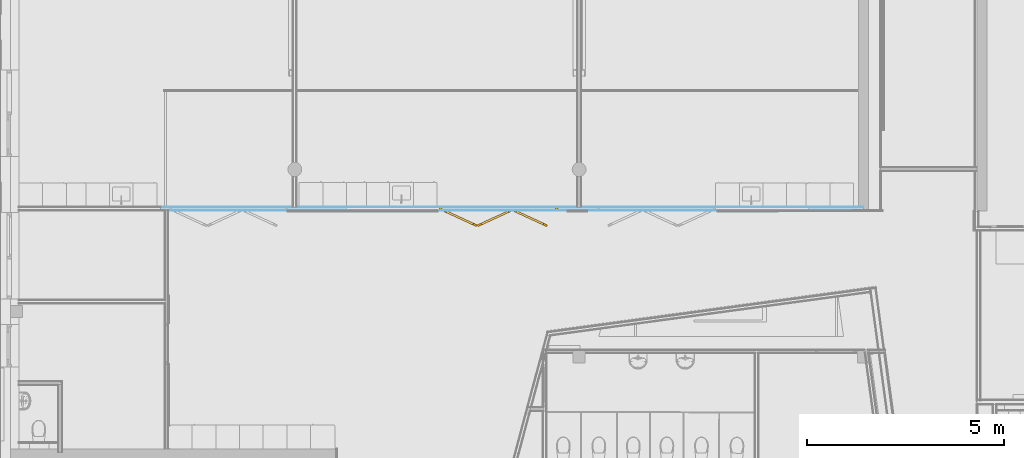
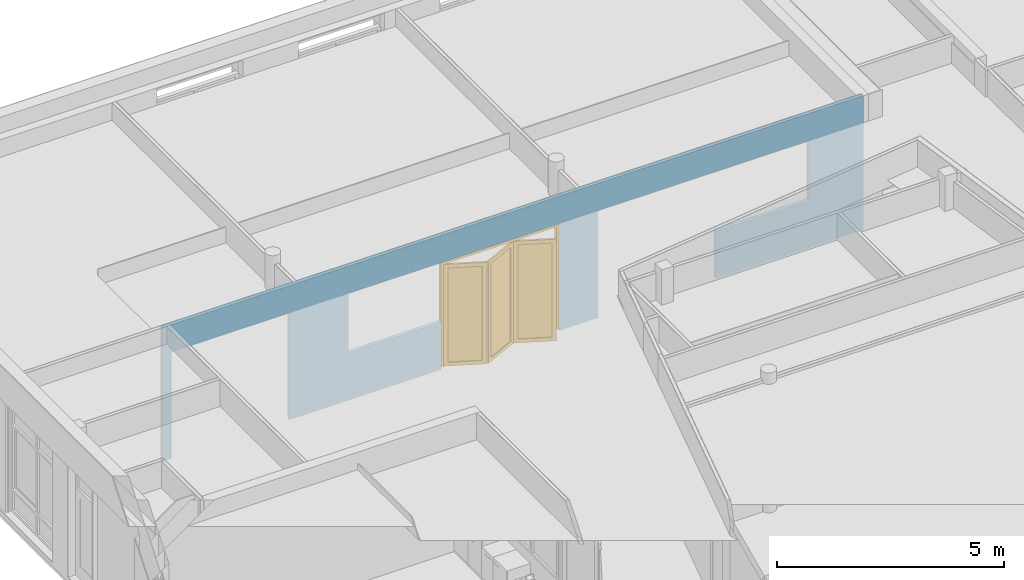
# One storey, part 37 of 167: 1 door, 5 openings, 1 element without a shape of its own, plus 3 elements that do not belong to this part.
"""IFC2X3 building model written with IfcOpenShell, lengths in millimetres."""

from ifc_helpers import new_model, entity, si_unit, converted_unit, derived_unit, money_unit, direction, frame, origin_with_axes, place, context, subcontext, project, spatial, open_shell, faceted_brep, surface_model, source, transform, mapped, material, type_object, type_shapes, element, fill, aggregate, save


model = new_model("IFC2X3")

# Units and contexts
model_context = context("Model", 3, precision=0.01, world=origin_with_axes(), true_north=direction((0.0, 1.0)))
plan_context = context("Plan", 3, precision=0.01, world=origin_with_axes(), true_north=direction((0.0, 1.0)))
body_context = subcontext(model_context, "Body", "Model", "MODEL_VIEW")
ifc_project = project(units=[si_unit("LENGTHUNIT", "METRE", prefix="MILLI"), si_unit("AREAUNIT", "SQUARE_METRE"), si_unit("VOLUMEUNIT", "CUBIC_METRE"), converted_unit("PLANEANGLEUNIT", "DEGREE", entity("IfcPlaneAngleMeasure", 0.0174532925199), si_unit("PLANEANGLEUNIT", "RADIAN"), dimensions=[0, 0, 0, 0, 0, 0, 0]), si_unit("SOLIDANGLEUNIT", "STERADIAN"), money_unit("EUR"), converted_unit("TIMEUNIT", "Year", entity("IfcTimeMeasure", 31556926.0), si_unit("TIMEUNIT", "SECOND"), dimensions=[0, 0, 1, 0, 0, 0, 0]), si_unit("MASSUNIT", "GRAM", prefix="KILO"), si_unit("THERMODYNAMICTEMPERATUREUNIT", "DEGREE_CELSIUS"), si_unit("LUMINOUSINTENSITYUNIT", "LUMEN"), si_unit("ENERGYUNIT", "JOULE", prefix="MEGA"), derived_unit("THERMALCONDUCTANCEUNIT", [(si_unit("POWERUNIT", "WATT"), 1), (si_unit("LENGTHUNIT", "METRE"), -1), (si_unit("THERMODYNAMICTEMPERATUREUNIT", "KELVIN"), -1)]), derived_unit("SPECIFICHEATCAPACITYUNIT", [(si_unit("ENERGYUNIT", "JOULE"), 1), (si_unit("MASSUNIT", "GRAM", prefix="KILO"), -1), (si_unit("THERMODYNAMICTEMPERATUREUNIT", "KELVIN"), -1)]), derived_unit("MASSDENSITYUNIT", [(si_unit("MASSUNIT", "GRAM", prefix="KILO"), 1), (si_unit("VOLUMEUNIT", "CUBIC_METRE"), -1)])], contexts=[model_context, plan_context])

# Site, building, storey
site_placement = place(None, origin_with_axes())
site = spatial("IfcSite", under=ifc_project, at=site_placement, Name="Site", CompositionType="ELEMENT")
building_placement = place(site_placement, origin_with_axes())
building = spatial("IfcBuilding", under=site, at=building_placement, Name="Naam gebouw", CompositionType="ELEMENT")
storey_placement = place(building_placement, origin_with_axes())
storey = spatial("IfcBuildingStorey", under=building, at=storey_placement, Name="Begane grond", CompositionType="ELEMENT", Elevation=0.0)

# Door
door_style = type_object("IfcDoorStyle", Name="DV1 24", ConstructionType="NOTDEFINED", OperationType="FOLDING_TO_LEFT", ParameterTakesPrecedence=False, Sizeable=False)
shared_shape = source(origin_with_axes(), body_context, "Body", "SurfaceModel", [
    faceted_brep([(1500.0, 0.0, 0.0), (1500.0, -80.0, 0.0), (1433.0, -80.0, 0.0), (1433.0, 0.0, 0.0), (1500.0, 0.0, 2733.0), (1500.0, -80.0, 2733.0), (1433.0, -80.0, 2733.0), (1433.0, 0.0, 2733.0)], [[[0, 1, 2, 3]], [[4, 5, 1, 0]], [[1, 5, 6, 2]], [[3, 2, 6, 7]], [[0, 3, 7, 4]], [[7, 6, 5, 4]]]),
    faceted_brep([(-1500.0, 0.0, 0.0), (-1500.0, -80.0, 0.0), (-1500.0, -80.0, 2733.0), (-1500.0, 0.0, 2733.0), (-1433.0, 0.0, 0.0), (-1433.0, -80.0, 0.0), (-1433.0, -80.0, 2733.0), (-1433.0, 0.0, 2733.0)], [[[0, 1, 2, 3]], [[4, 5, 1, 0]], [[1, 5, 6, 2]], [[3, 2, 6, 7]], [[0, 3, 7, 4]], [[7, 6, 5, 4]]]),
    faceted_brep([(1500.0, 0.0, 2800.0), (1500.0, -80.0, 2800.0), (1500.0, -80.0, 2733.0), (1500.0, 0.0, 2733.0), (-1500.0, 0.0, 2800.0), (-1500.0, -80.0, 2800.0), (-1500.0, -80.0, 2733.0), (-1433.0, -80.0, 2733.0), (1433.0, -80.0, 2733.0), (1433.0, 0.0, 2733.0), (-1433.0, 0.0, 2733.0), (-1500.0, 0.0, 2733.0)], [[[0, 1, 2, 3]], [[4, 5, 1, 0]], [[1, 5, 6, 7, 8, 2]], [[3, 2, 8, 9]], [[0, 3, 9, 10, 11, 4]], [[11, 6, 5, 4]], [[10, 7, 6, 11]], [[9, 8, 7, 10]]]),
    faceted_brep([(1433.0, 0.0, 100.0), (1412.08677852, -45.4162654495, 100.0), (1321.25424762, -3.58982249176, 100.0), (1342.1674691, 41.8264429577, 100.0), (1433.0, 0.0, 2633.0), (1412.08677852, -45.4162654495, 2633.0), (1321.25424762, -3.58982249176, 2633.0), (1342.1674691, 41.8264429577, 2633.0)], [[[0, 1, 2, 3]], [[4, 5, 1, 0]], [[1, 5, 6, 2]], [[3, 2, 6, 7]], [[0, 3, 7, 4]], [[7, 6, 5, 4]]]),
    faceted_brep([(565.246554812, 399.581951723, 100.0), (544.333333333, 354.165686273, 100.0), (544.333333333, 354.165686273, 2633.0), (565.246554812, 399.581951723, 2633.0), (656.079085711, 357.755508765, 100.0), (635.165864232, 312.339243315, 100.0), (635.165864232, 312.339243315, 2633.0), (656.079085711, 357.755508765, 2633.0)], [[[0, 1, 2, 3]], [[4, 5, 1, 0]], [[1, 5, 6, 2]], [[3, 2, 6, 7]], [[0, 3, 7, 4]], [[7, 6, 5, 4]]]),
    faceted_brep([(1433.0, 0.0, 0.0), (1412.08677852, -45.4162654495, 0.0), (544.333333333, 354.165686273, 0.0), (565.246554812, 399.581951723, 0.0), (1433.0, 0.0, 100.0), (1412.08677852, -45.4162654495, 100.0), (1321.25424762, -3.58982249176, 100.0), (635.165864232, 312.339243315, 100.0), (544.333333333, 354.165686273, 100.0), (565.246554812, 399.581951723, 100.0), (656.079085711, 357.755508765, 100.0), (1342.1674691, 41.8264429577, 100.0)], [[[0, 1, 2, 3]], [[4, 5, 1, 0]], [[1, 5, 6, 7, 8, 2]], [[3, 2, 8, 9]], [[0, 3, 9, 10, 11, 4]], [[11, 6, 5, 4]], [[10, 7, 6, 11]], [[9, 8, 7, 10]]]),
    faceted_brep([(1433.0, 0.0, 2733.0), (1412.08677852, -45.4162654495, 2733.0), (1412.08677852, -45.4162654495, 2633.0), (1433.0, 0.0, 2633.0), (565.246554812, 399.581951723, 2733.0), (544.333333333, 354.165686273, 2733.0), (544.333333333, 354.165686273, 2633.0), (635.165864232, 312.339243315, 2633.0), (1321.25424762, -3.58982249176, 2633.0), (1342.1674691, 41.8264429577, 2633.0), (656.079085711, 357.755508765, 2633.0), (565.246554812, 399.581951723, 2633.0)], [[[0, 1, 2, 3]], [[4, 5, 1, 0]], [[1, 5, 6, 7, 8, 2]], [[3, 2, 8, 9]], [[0, 3, 9, 10, 11, 4]], [[11, 6, 5, 4]], [[10, 7, 6, 11]], [[9, 8, 7, 10]]]),
    surface_model("IfcShellBasedSurfaceModel", [(648.132061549, 340.497327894, 100.0), (648.132061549, 340.497327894, 2633.0), (1334.22044494, 24.5682620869, 2633.0), (1334.22044494, 24.5682620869, 100.0)], [open_shell([[[0, 1, 2, 3]]])]),
    surface_model("IfcShellBasedSurfaceModel", [(643.112888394, 329.597424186, 100.0), (1329.20127178, 13.668358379, 100.0), (1329.20127178, 13.668358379, 2633.0), (643.112888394, 329.597424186, 2633.0)], [open_shell([[[0, 1, 2, 3]]])]),
    faceted_brep([(523.420111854, 399.581951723, 100.0), (544.333333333, 354.165686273, 100.0), (453.500802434, 312.339243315, 100.0), (432.587580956, 357.755508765, 100.0), (523.420111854, 399.581951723, 2633.0), (544.333333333, 354.165686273, 2633.0), (453.500802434, 312.339243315, 2633.0), (432.587580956, 357.755508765, 2633.0)], [[[0, 1, 2, 3]], [[4, 5, 1, 0]], [[1, 5, 6, 2]], [[3, 2, 6, 7]], [[0, 3, 7, 4]], [[7, 6, 5, 4]]]),
    faceted_brep([(-344.333333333, 0.0, 100.0), (-323.420111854, -45.4162654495, 100.0), (-323.420111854, -45.4162654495, 2633.0), (-344.333333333, 0.0, 2633.0), (-253.500802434, 41.8264429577, 100.0), (-232.587580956, -3.58982249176, 100.0), (-232.587580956, -3.58982249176, 2633.0), (-253.500802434, 41.8264429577, 2633.0)], [[[0, 1, 2, 3]], [[4, 5, 1, 0]], [[1, 5, 6, 2]], [[3, 2, 6, 7]], [[0, 3, 7, 4]], [[7, 6, 5, 4]]]),
    faceted_brep([(523.420111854, 399.581951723, 0.0), (544.333333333, 354.165686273, 0.0), (-323.420111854, -45.4162654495, 0.0), (-344.333333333, 0.0, 0.0), (523.420111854, 399.581951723, 100.0), (544.333333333, 354.165686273, 100.0), (453.500802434, 312.339243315, 100.0), (-232.587580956, -3.58982249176, 100.0), (-323.420111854, -45.4162654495, 100.0), (-344.333333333, 0.0, 100.0), (-253.500802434, 41.8264429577, 100.0), (432.587580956, 357.755508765, 100.0)], [[[0, 1, 2, 3]], [[4, 5, 1, 0]], [[1, 5, 6, 7, 8, 2]], [[3, 2, 8, 9]], [[0, 3, 9, 10, 11, 4]], [[11, 6, 5, 4]], [[10, 7, 6, 11]], [[9, 8, 7, 10]]]),
    faceted_brep([(523.420111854, 399.581951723, 2733.0), (544.333333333, 354.165686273, 2733.0), (544.333333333, 354.165686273, 2633.0), (523.420111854, 399.581951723, 2633.0), (-344.333333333, 0.0, 2733.0), (-323.420111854, -45.4162654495, 2733.0), (-323.420111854, -45.4162654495, 2633.0), (-232.587580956, -3.58982249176, 2633.0), (453.500802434, 312.339243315, 2633.0), (432.587580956, 357.755508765, 2633.0), (-253.500802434, 41.8264429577, 2633.0), (-344.333333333, 0.0, 2633.0)], [[[0, 1, 2, 3]], [[4, 5, 1, 0]], [[1, 5, 6, 7, 8, 2]], [[3, 2, 8, 9]], [[0, 3, 9, 10, 11, 4]], [[11, 6, 5, 4]], [[10, 7, 6, 11]], [[9, 8, 7, 10]]]),
    surface_model("IfcShellBasedSurfaceModel", [(-245.553778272, 24.5682620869, 100.0), (-245.553778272, 24.5682620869, 2633.0), (440.534605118, 340.497327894, 2633.0), (440.534605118, 340.497327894, 100.0)], [open_shell([[[0, 1, 2, 3]]])]),
    surface_model("IfcShellBasedSurfaceModel", [(-240.534605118, 13.668358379, 100.0), (445.553778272, 329.597424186, 100.0), (445.553778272, 329.597424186, 2633.0), (-240.534605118, 13.668358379, 2633.0)], [open_shell([[[0, 1, 2, 3]]])]),
    faceted_brep([(-344.333333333, 0.0, 100.0), (-365.246554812, -45.4162654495, 100.0), (-456.079085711, -3.58982249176, 100.0), (-435.165864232, 41.8264429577, 100.0), (-344.333333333, 0.0, 2633.0), (-365.246554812, -45.4162654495, 2633.0), (-456.079085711, -3.58982249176, 2633.0), (-435.165864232, 41.8264429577, 2633.0)], [[[0, 1, 2, 3]], [[4, 5, 1, 0]], [[1, 5, 6, 2]], [[3, 2, 6, 7]], [[0, 3, 7, 4]], [[7, 6, 5, 4]]]),
    faceted_brep([(-1212.08677852, 399.581951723, 100.0), (-1233.0, 354.165686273, 100.0), (-1233.0, 354.165686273, 2633.0), (-1212.08677852, 399.581951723, 2633.0), (-1121.25424762, 357.755508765, 100.0), (-1142.1674691, 312.339243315, 100.0), (-1142.1674691, 312.339243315, 2633.0), (-1121.25424762, 357.755508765, 2633.0)], [[[0, 1, 2, 3]], [[4, 5, 1, 0]], [[1, 5, 6, 2]], [[3, 2, 6, 7]], [[0, 3, 7, 4]], [[7, 6, 5, 4]]]),
    faceted_brep([(-344.333333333, 0.0, 0.0), (-365.246554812, -45.4162654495, 0.0), (-1233.0, 354.165686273, 0.0), (-1212.08677852, 399.581951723, 0.0), (-344.333333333, 0.0, 100.0), (-365.246554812, -45.4162654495, 100.0), (-456.079085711, -3.58982249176, 100.0), (-1142.1674691, 312.339243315, 100.0), (-1233.0, 354.165686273, 100.0), (-1212.08677852, 399.581951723, 100.0), (-1121.25424762, 357.755508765, 100.0), (-435.165864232, 41.8264429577, 100.0)], [[[0, 1, 2, 3]], [[4, 5, 1, 0]], [[1, 5, 6, 7, 8, 2]], [[3, 2, 8, 9]], [[0, 3, 9, 10, 11, 4]], [[11, 6, 5, 4]], [[10, 7, 6, 11]], [[9, 8, 7, 10]]]),
    faceted_brep([(-344.333333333, 0.0, 2733.0), (-365.246554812, -45.4162654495, 2733.0), (-365.246554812, -45.4162654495, 2633.0), (-344.333333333, 0.0, 2633.0), (-1212.08677852, 399.581951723, 2733.0), (-1233.0, 354.165686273, 2733.0), (-1233.0, 354.165686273, 2633.0), (-1142.1674691, 312.339243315, 2633.0), (-456.079085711, -3.58982249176, 2633.0), (-435.165864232, 41.8264429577, 2633.0), (-1121.25424762, 357.755508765, 2633.0), (-1212.08677852, 399.581951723, 2633.0)], [[[0, 1, 2, 3]], [[4, 5, 1, 0]], [[1, 5, 6, 7, 8, 2]], [[3, 2, 8, 9]], [[0, 3, 9, 10, 11, 4]], [[11, 6, 5, 4]], [[10, 7, 6, 11]], [[9, 8, 7, 10]]]),
    surface_model("IfcShellBasedSurfaceModel", [(-1129.20127178, 340.497327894, 100.0), (-1129.20127178, 340.497327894, 2633.0), (-443.112888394, 24.5682620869, 2633.0), (-443.112888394, 24.5682620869, 100.0)], [open_shell([[[0, 1, 2, 3]]])]),
    surface_model("IfcShellBasedSurfaceModel", [(-1134.22044494, 329.597424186, 100.0), (-448.132061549, 13.668358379, 100.0), (-448.132061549, 13.668358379, 2633.0), (-1134.22044494, 329.597424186, 2633.0)], [open_shell([[[0, 1, 2, 3]]])]),
])
type_shapes(door_style, [shared_shape])
wall_placement = place(storey_placement, frame((3950.0, 42200.0, -100.0), z_axis=(0.0, 0.0, 1.0), x_axis=(1.0, 0.0, 0.0)))
opening_3_placement = place(wall_placement, frame((8415.0, 0.0, 100.0), z_axis=(0.0, 0.0, 1.0), x_axis=(1.0, 0.0, 0.0)))
door_placement = place(opening_3_placement, frame((1500.0, 0.0, 0.0), z_axis=(0.0, 0.0, 1.0), x_axis=(-1.0, 0.0, 0.0)))
door = element("IfcDoor", 1, at=door_placement, inside=storey, type_object=door_style, Name="32_Deur_Si-02", ObjectType="DOOR", OverallHeight=2800.0, OverallWidth=3000.0, context=body_context, shape_type="MappedRepresentation", body=[
    mapped(shared_shape, transform((1500.0, 50.0, 0.0))),
])

# Wall, openings
wall_type = type_object("IfcWallType", Name="_TenW_22_Metalstud 100 enkel gipsvezelplaat 100", PredefinedType="NOTDEFINED")
wall = element("IfcWall", 2, at=wall_placement, inside=storey, type_object=wall_type, Name="22_Wand_Wand-x")
opening_1_placement = place(wall_placement, frame((5740.0, 0.0, 1300.0), z_axis=(0.0, 0.0, 1.0), x_axis=(1.0, 0.0, 0.0)))
element("IfcOpeningElement", 3, at=opening_1_placement, cuts=wall, Name="31_Raam_Hi-53", context=body_context, shape_type="Brep", body=[
    faceted_brep([(-1175.0, 100.0, 1600.0), (-1175.0, 100.0, 0.0), (-1175.0, -200.0, 0.0), (-1175.0, -200.0, 1600.0), (1175.0, 100.0, 1600.0), (1175.0, 100.0, 0.0), (1175.0, -200.0, 0.0), (1175.0, -200.0, 1600.0)], [[[0, 1, 2, 3]], [[0, 4, 5, 1]], [[1, 5, 6, 2]], [[3, 2, 6, 7]], [[4, 0, 3, 7]], [[5, 4, 7, 6]]]),
])
opening_2_placement = place(wall_placement, frame((15080.2814686, 0.0, 1300.0), z_axis=(0.0, 0.0, 1.0), x_axis=(1.0, 0.0, 0.0)))
element("IfcOpeningElement", 4, at=opening_2_placement, cuts=wall, Name="31_Raam_Hi-53", context=body_context, shape_type="Brep", body=[
    faceted_brep([(1175.0, -200.0, 1600.0), (1175.0, -200.0, 0.0), (1175.0, 100.0, 0.0), (1175.0, 100.0, 1600.0), (-1175.0, -200.0, 1600.0), (-1175.0, -200.0, 0.0), (-1175.0, 100.0, 0.0), (-1175.0, 100.0, 1600.0)], [[[0, 1, 2, 3]], [[0, 4, 5, 1]], [[1, 5, 6, 2]], [[3, 2, 6, 7]], [[4, 0, 3, 7]], [[5, 4, 7, 6]]]),
])
opening_3 = element("IfcOpeningElement", 5, at=opening_3_placement, cuts=wall, Name="32_Deur_Si-02", context=body_context, shape_type="Brep", body=[
    faceted_brep([(1500.0, -200.0, 2800.0), (1500.0, -200.0, 0.0), (1500.0, 100.0, 0.0), (1500.0, 100.0, 2800.0), (-1500.0, -200.0, 2800.0), (-1500.0, -200.0, 0.0), (-1500.0, 100.0, 0.0), (-1500.0, 100.0, 2800.0)], [[[0, 1, 2, 3]], [[0, 4, 5, 1]], [[1, 5, 6, 2]], [[3, 2, 6, 7]], [[4, 0, 3, 7]], [[5, 4, 7, 6]]]),
])

fill(opening_3, door)

# Opening
opening_4_placement = place(wall_placement, frame((12405.2814686, 0.0, 100.0), z_axis=(0.0, 0.0, 1.0), x_axis=(1.0, 0.0, 0.0)))
element("IfcOpeningElement", 6, at=opening_4_placement, cuts=wall, Name="32_Deur_Si-02s", context=body_context, shape_type="Brep", body=[
    faceted_brep([(-1500.0, 100.0, 2800.0), (-1500.0, 100.0, 0.0), (-1500.0, -200.0, 0.0), (-1500.0, -200.0, 2800.0), (1500.0, 100.0, 2800.0), (1500.0, 100.0, 0.0), (1500.0, -200.0, 0.0), (1500.0, -200.0, 2800.0)], [[[0, 1, 2, 3]], [[0, 4, 5, 1]], [[1, 5, 6, 2]], [[3, 2, 6, 7]], [[4, 0, 3, 7]], [[5, 4, 7, 6]]]),
])

opening_5_placement = place(wall_placement, frame((1575.0, 0.0, 100.0), z_axis=(0.0, 0.0, 1.0), x_axis=(1.0, 0.0, 0.0)))
element("IfcOpeningElement", 7, at=opening_5_placement, cuts=wall, Name="32_Deur_Si-01", context=body_context, shape_type="Brep", body=[
    faceted_brep([(1500.0, -200.0, 2800.0), (1500.0, -200.0, 0.0), (1500.0, 100.0, 0.0), (1500.0, 100.0, 2800.0), (-1500.0, -200.0, 2800.0), (-1500.0, -200.0, 0.0), (-1500.0, 100.0, 0.0), (-1500.0, 100.0, 2800.0)], [[[0, 1, 2, 3]], [[0, 4, 5, 1]], [[1, 5, 6, 2]], [[3, 2, 6, 7]], [[4, 0, 3, 7]], [[5, 4, 7, 6]]]),
])

# Building element part
ifc_material_1 = material(Name="Gipsplaat watervast")
building_element_part_1_placement = place(wall_placement, origin_with_axes())
building_element_part_1 = element("IfcBuildingElementPart", 8, at=building_element_part_1_placement, material=ifc_material_1, Name="Gipsplaat watervast", context=body_context, shape_type="Brep", body=[
    faceted_brep([(75.0, 50.0, 2900.0), (75.0, 50.0, 100.0), (75.0, 50.0, 30.0), (-150.0, 50.0, 30.0), (-150.0, 50.0, 3630.0), (3212.5, 50.0, 3630.0), (3212.5, 50.0, 30.0), (3075.0, 50.0, 30.0), (3075.0, 50.0, 100.0), (3075.0, 50.0, 2900.0), (75.0, 37.5, 2900.0), (75.0, 37.5, 100.0), (75.0, 37.5, 30.0), (-150.0, 37.5, 30.0), (-150.0, 37.5, 3630.0), (3212.5, 37.5, 3630.0), (3212.5, 37.5, 30.0), (3075.0, 37.5, 30.0), (3075.0, 37.5, 100.0), (3075.0, 37.5, 2900.0)], [[[0, 1, 2, 3, 4, 5, 6, 7, 8, 9]], [[1, 0, 10, 11]], [[1, 11, 12, 2]], [[12, 13, 3, 2]], [[13, 14, 4, 3]], [[4, 14, 15, 5]], [[6, 5, 15, 16]], [[7, 6, 16, 17]], [[18, 8, 7, 17]], [[9, 8, 18, 19]], [[0, 9, 19, 10]], [[19, 18, 17, 16, 15, 14, 13, 12, 11, 10]]]),
    faceted_brep([(10905.2814686, 50.0, 2900.0), (10905.2814686, 50.0, 100.0), (10905.2814686, 50.0, 30.0), (10487.5, 50.0, 30.0), (10487.5, 50.0, 3630.0), (17650.0, 50.0, 3630.0), (17650.0, 50.0, 30.0), (13905.2814686, 50.0, 30.0), (13905.2814686, 50.0, 100.0), (13905.2814686, 50.0, 1300.0), (16255.2814686, 50.0, 1300.0), (16255.2814686, 50.0, 2900.0), (13905.2814686, 50.0, 2900.0), (10905.2814686, 37.5, 2900.0), (10905.2814686, 37.5, 100.0), (10905.2814686, 37.5, 30.0), (10487.5, 37.5, 30.0), (10487.5, 37.5, 3630.0), (17650.0, 37.5, 3630.0), (17650.0, 37.5, 30.0), (13905.2814686, 37.5, 30.0), (13905.2814686, 37.5, 100.0), (13905.2814686, 37.5, 1300.0), (16255.2814686, 37.5, 1300.0), (16255.2814686, 37.5, 2900.0), (13905.2814686, 37.5, 2900.0)], [[[0, 1, 2, 3, 4, 5, 6, 7, 8, 9, 10, 11, 12]], [[1, 0, 13, 14]], [[1, 14, 15, 2]], [[16, 3, 2, 15]], [[17, 4, 3, 16]], [[18, 5, 4, 17]], [[5, 18, 19, 6]], [[6, 19, 20, 7]], [[21, 8, 7, 20]], [[22, 9, 8, 21]], [[9, 22, 23, 10]], [[10, 23, 24, 11]], [[25, 13, 0, 12, 11, 24]], [[13, 25, 24, 23, 22, 21, 20, 19, 18, 17, 16, 15, 14]]]),
    faceted_brep([(6915.0, 37.5, 1300.0), (6915.0, 50.0, 1300.0), (4565.0, 50.0, 1300.0), (4565.0, 37.5, 1300.0), (6915.0, 50.0, 100.0), (6915.0, 37.5, 100.0), (9915.0, 50.0, 2900.0), (6915.0, 50.0, 2900.0), (4565.0, 50.0, 2900.0), (6915.0, 50.0, 30.0), (3287.5, 50.0, 30.0), (3287.5, 50.0, 3630.0), (10412.5, 50.0, 3630.0), (10412.5, 50.0, 30.0), (9915.0, 50.0, 30.0), (9915.0, 50.0, 100.0), (4565.0, 37.5, 2900.0), (9915.0, 37.5, 2900.0), (9915.0, 37.5, 100.0), (9915.0, 37.5, 30.0), (10412.5, 37.5, 30.0), (10412.5, 37.5, 3630.0), (3287.5, 37.5, 3630.0), (3287.5, 37.5, 30.0), (6915.0, 37.5, 30.0), (6915.0, 37.5, 2900.0)], [[[0, 1, 2, 3]], [[4, 1, 0, 5]], [[6, 7, 8, 2, 1, 4, 9, 10, 11, 12, 13, 14, 15]], [[8, 16, 3, 2]], [[17, 18, 19, 20, 21, 22, 23, 24, 5, 0, 3, 16, 25]], [[4, 5, 24, 9]], [[7, 6, 17, 25, 16, 8]], [[23, 10, 9, 24]], [[22, 11, 10, 23]], [[21, 12, 11, 22]], [[12, 21, 20, 13]], [[13, 20, 19, 14]], [[18, 15, 14, 19]], [[6, 15, 18, 17]]]),
])

ifc_material_2 = material(Name="Isolatie - Steenwol zacht")
building_element_part_2_placement = place(wall_placement, origin_with_axes())
building_element_part_2 = element("IfcBuildingElementPart", 9, at=building_element_part_2_placement, material=ifc_material_2, Name="Isolatie - Steenwol zacht", context=body_context, shape_type="Brep", body=[
    faceted_brep([(75.0, 37.5, 2900.0), (75.0, 37.5, 100.0), (75.0, 37.5, 30.0), (-150.0, 37.5, 30.0), (-150.0, 37.5, 3630.0), (17650.0, 37.5, 3630.0), (17650.0, 37.5, 30.0), (13905.2814686, 37.5, 30.0), (13905.2814686, 37.5, 100.0), (13905.2814686, 37.5, 1300.0), (16255.2814686, 37.5, 1300.0), (16255.2814686, 37.5, 2900.0), (10905.2814686, 37.5, 2900.0), (10905.2814686, 37.5, 100.0), (10905.2814686, 37.5, 30.0), (9915.0, 37.5, 30.0), (9915.0, 37.5, 100.0), (9915.0, 37.5, 2900.0), (4565.0, 37.5, 2900.0), (4565.0, 37.5, 1300.0), (6915.0, 37.5, 1300.0), (6915.0, 37.5, 100.0), (6915.0, 37.5, 30.0), (3075.0, 37.5, 30.0), (3075.0, 37.5, 100.0), (3075.0, 37.5, 2900.0), (75.0, -37.5, 2900.0), (75.0, -37.5, 100.0), (75.0, -37.5, 30.0), (-150.0, -37.5, 30.0), (-150.0, -37.5, 3630.0), (17650.0, -37.5, 3630.0), (17650.0, -37.5, 30.0), (13905.2814686, -37.5, 30.0), (13905.2814686, -37.5, 100.0), (13905.2814686, -37.5, 1300.0), (16255.2814686, -37.5, 1300.0), (16255.2814686, -37.5, 2900.0), (10905.2814686, -37.5, 2900.0), (10905.2814686, -37.5, 100.0), (10905.2814686, -37.5, 30.0), (9915.0, -37.5, 30.0), (9915.0, -37.5, 100.0), (9915.0, -37.5, 2900.0), (4565.0, -37.5, 2900.0), (4565.0, -37.5, 1300.0), (6915.0, -37.5, 1300.0), (6915.0, -37.5, 100.0), (6915.0, -37.5, 30.0), (3075.0, -37.5, 30.0), (3075.0, -37.5, 100.0), (3075.0, -37.5, 2900.0)], [[[0, 1, 2, 3, 4, 5, 6, 7, 8, 9, 10, 11, 12, 13, 14, 15, 16, 17, 18, 19, 20, 21, 22, 23, 24, 25]], [[1, 0, 26, 27]], [[1, 27, 28, 2]], [[28, 29, 3, 2]], [[29, 30, 4, 3]], [[4, 30, 31, 5]], [[6, 5, 31, 32]], [[7, 6, 32, 33]], [[8, 7, 33, 34]], [[9, 8, 34, 35]], [[35, 36, 10, 9]], [[37, 11, 10, 36]], [[12, 11, 37, 38]], [[12, 38, 39, 13]], [[39, 40, 14, 13]], [[40, 41, 15, 14]], [[15, 41, 42, 16]], [[42, 43, 17, 16]], [[44, 18, 17, 43]], [[19, 18, 44, 45]], [[19, 45, 46, 20]], [[46, 47, 21, 20]], [[48, 22, 21, 47]], [[48, 49, 23, 22]], [[50, 24, 23, 49]], [[25, 24, 50, 51]], [[0, 25, 51, 26]], [[51, 50, 49, 48, 47, 46, 45, 44, 43, 42, 41, 40, 39, 38, 37, 36, 35, 34, 33, 32, 31, 30, 29, 28, 27, 26]]]),
])

building_element_part_3_placement = place(wall_placement, origin_with_axes())
building_element_part_3 = element("IfcBuildingElementPart", 10, at=building_element_part_3_placement, material=ifc_material_1, Name="Gipsplaat watervast", context=body_context, shape_type="Brep", body=[
    faceted_brep([(75.0, -37.5, 2900.0), (75.0, -37.5, 100.0), (75.0, -37.5, 30.0), (50.0, -37.5, 30.0), (50.0, -37.5, 3630.0), (17650.0, -37.5, 3630.0), (17650.0, -37.5, 30.0), (13905.2814686, -37.5, 30.0), (13905.2814686, -37.5, 100.0), (13905.2814686, -37.5, 1300.0), (16255.2814686, -37.5, 1300.0), (16255.2814686, -37.5, 2900.0), (10905.2814686, -37.5, 2900.0), (10905.2814686, -37.5, 100.0), (10905.2814686, -37.5, 30.0), (9915.0, -37.5, 30.0), (9915.0, -37.5, 100.0), (9915.0, -37.5, 2900.0), (4565.0, -37.5, 2900.0), (4565.0, -37.5, 1300.0), (6915.0, -37.5, 1300.0), (6915.0, -37.5, 100.0), (6915.0, -37.5, 30.0), (3075.0, -37.5, 30.0), (3075.0, -37.5, 100.0), (3075.0, -37.5, 2900.0), (75.0, -50.0, 2900.0), (75.0, -50.0, 100.0), (75.0, -50.0, 30.0), (50.0, -50.0, 30.0), (50.0, -50.0, 3630.0), (17650.0, -50.0, 3630.0), (17650.0, -50.0, 30.0), (13905.2814686, -50.0, 30.0), (13905.2814686, -50.0, 100.0), (13905.2814686, -50.0, 1300.0), (16255.2814686, -50.0, 1300.0), (16255.2814686, -50.0, 2900.0), (10905.2814686, -50.0, 2900.0), (10905.2814686, -50.0, 100.0), (10905.2814686, -50.0, 30.0), (9915.0, -50.0, 30.0), (9915.0, -50.0, 100.0), (9915.0, -50.0, 2900.0), (4565.0, -50.0, 2900.0), (4565.0, -50.0, 1300.0), (6915.0, -50.0, 1300.0), (6915.0, -50.0, 100.0), (6915.0, -50.0, 30.0), (3075.0, -50.0, 30.0), (3075.0, -50.0, 100.0), (3075.0, -50.0, 2900.0)], [[[0, 1, 2, 3, 4, 5, 6, 7, 8, 9, 10, 11, 12, 13, 14, 15, 16, 17, 18, 19, 20, 21, 22, 23, 24, 25]], [[1, 0, 26, 27]], [[1, 27, 28, 2]], [[28, 29, 3, 2]], [[29, 30, 4, 3]], [[4, 30, 31, 5]], [[6, 5, 31, 32]], [[7, 6, 32, 33]], [[8, 7, 33, 34]], [[9, 8, 34, 35]], [[35, 36, 10, 9]], [[37, 11, 10, 36]], [[12, 11, 37, 38]], [[12, 38, 39, 13]], [[39, 40, 14, 13]], [[40, 41, 15, 14]], [[15, 41, 42, 16]], [[42, 43, 17, 16]], [[44, 18, 17, 43]], [[19, 18, 44, 45]], [[19, 45, 46, 20]], [[46, 47, 21, 20]], [[48, 22, 21, 47]], [[48, 49, 23, 22]], [[50, 24, 23, 49]], [[25, 24, 50, 51]], [[0, 25, 51, 26]], [[51, 50, 49, 48, 47, 46, 45, 44, 43, 42, 41, 40, 39, 38, 37, 36, 35, 34, 33, 32, 31, 30, 29, 28, 27, 26]]]),
])

aggregate(wall, [building_element_part_1, building_element_part_2, building_element_part_3])

save(model, "model.ifc")
